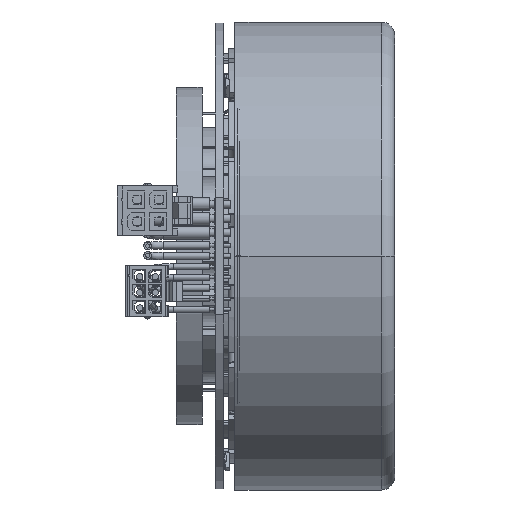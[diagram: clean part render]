
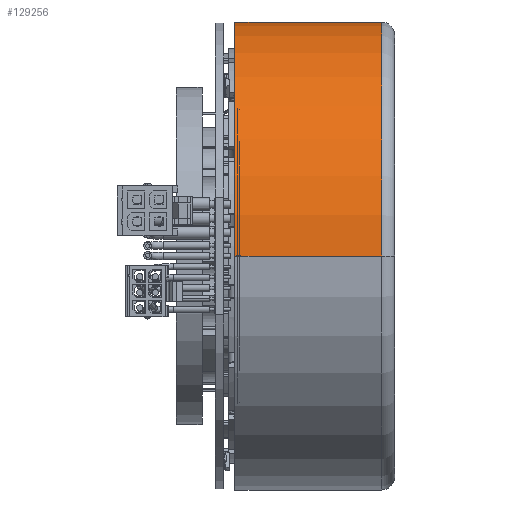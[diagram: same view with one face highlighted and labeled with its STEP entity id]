
A CAD part, front view. The second image highlights one B-rep face of the part: STEP entity #129256.
In plain terms, the highlighted cylindrical face has radius 45 mm (diameter 90 mm), a partial arc.
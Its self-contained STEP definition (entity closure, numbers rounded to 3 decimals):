
#128216=CARTESIAN_POINT('',(11.3,0.,0.));
#128217=DIRECTION('',(1.,0.,0.));
#128218=DIRECTION('',(0.,1.,0.));
#128219=AXIS2_PLACEMENT_3D('',#128216,#128217,#128218);
#128224=DIRECTION('',(1.,0.,0.));
#128225=VECTOR('',#128224,28.2);
#128226=CARTESIAN_POINT('',(11.3,45.,
0.));
#128227=LINE('',#128226,#128225);
#128231=CARTESIAN_POINT('',(39.5,0.,0.));
#128232=DIRECTION('',(1.,0.,0.));
#128233=DIRECTION('',(0.,1.,0.));
#128234=AXIS2_PLACEMENT_3D('',#128231,#128232,#128233);
#128239=DIRECTION('',(1.,0.,0.));
#128240=VECTOR('',#128239,28.2);
#128241=CARTESIAN_POINT('',(11.3,-45.,
0.));
#128242=LINE('',#128241,#128240);
#129167=CARTESIAN_POINT('',(39.5,-45.,0.));
#129168=CARTESIAN_POINT('',(39.5,45.,0.));
#129169=VERTEX_POINT('',#129167);
#129170=VERTEX_POINT('',#129168);
#129171=CARTESIAN_POINT('',(11.3,-45.,0.));
#129172=CARTESIAN_POINT('',(11.3,45.,0.));
#129173=VERTEX_POINT('',#129171);
#129174=VERTEX_POINT('',#129172);
#129242=CARTESIAN_POINT('',(53.059,0.,0.));
#129243=DIRECTION('',(-1.,0.,0.));
#129244=DIRECTION('',(0.,-1.,0.));
#129245=AXIS2_PLACEMENT_3D('',#129242,#129243,#129244);
#129246=CYLINDRICAL_SURFACE('',#129245,45.);
#129247=ORIENTED_EDGE('',*,*,#129224,.F.);
#129249=ORIENTED_EDGE('',*,*,#129248,.T.);
#129251=ORIENTED_EDGE('',*,*,#129250,.T.);
#129253=ORIENTED_EDGE('',*,*,#129252,.F.);
#129254=EDGE_LOOP('',(#129247,#129249,#129251,#129253));
#129255=FACE_OUTER_BOUND('',#129254,.F.);
#129256=ADVANCED_FACE('',(#129255),#129246,.T.);
#128220=CIRCLE('',#128219,45.);
#128235=CIRCLE('',#128234,45.);
#129224=EDGE_CURVE('',#129174,#129173,#128220,.T.);
#129248=EDGE_CURVE('',#129174,#129170,#128227,.T.);
#129250=EDGE_CURVE('',#129170,#129169,#128235,.T.);
#129252=EDGE_CURVE('',#129173,#129169,#128242,.T.);
